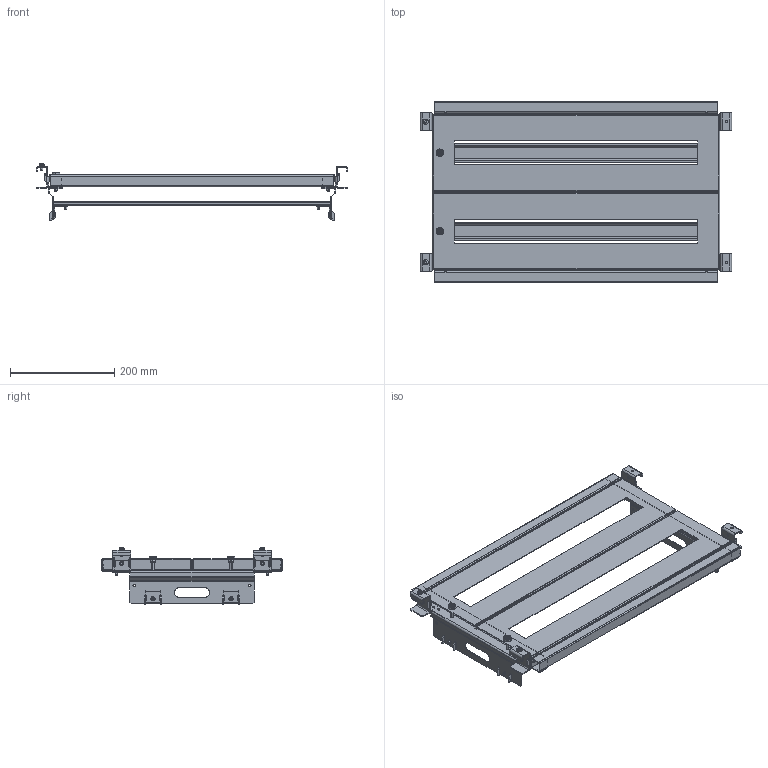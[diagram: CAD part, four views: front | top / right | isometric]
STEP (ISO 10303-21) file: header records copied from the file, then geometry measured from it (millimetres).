
FILE_DESCRIPTION (( 'STEP AP203' ), '1' );
FILE_NAME ('ECMI060040X.STEP', '2025-03-19T15:17:04', ( '' ), ( '' ), 'SwSTEP 2.0', 'SolidWorks 2022', '' );
FILE_SCHEMA (( 'CONFIG_CONTROL_DESIGN' ));
Length unit declared in the file: millimetre
Products named in the file (13): 03008060013_04; Vite TRI TCB UNI 8112_Vite trilobata TCB M5x30 UNI 8112; 0910200000001_01; 05008060005_07; Vite TRI TPS TORX DIN 7500_Vite trilobata TPS TORX M5x10 DIN7500; 10008060002_01; ECMI060040X; 03008060009_02; 10008060001_01; Vite TRI TCB TORX DIN 7500_Vite trilobata TCB TORX M5x10 DIN 7500; 05008060006_04; 00008060006_04; 03008060008_07
Assembly tree (44 placements, depth 3):
  ECMI060040X
    03008060009_02  x2
    10008060001_01  x4
    10008060002_01  x8
    Vite TRI TCB TORX DIN 7500_Vite trilobata TCB TORX M5x10 DIN 7500  x10
    Vite TRI TPS TORX DIN 7500_Vite trilobata TPS TORX M5x10 DIN7500  x8
    05008060005_07  x2
      03008060008_07
    00008060006_04  x2
    Vite TRI TCB UNI 8112_Vite trilobata TCB M5x30 UNI 8112  x2
    0910200000001_01  x2
    05008060006_04  x2
      03008060013_04
Bounding box: 597 x 346.4 x 108.92 mm (x, y, z)
Volume: 481556.8 mm3; surface area: 740251 mm2
Topology: 42 solids, 42 shells, 1884 faces, 4652 edges, 2872 vertices
Faces by surface type: plane 966, cylinder 738, torus 100, cone 72, sphere 4, bspline 4
Entity records: 18121 total; most frequent: DIRECTION 2842, CARTESIAN_POINT 2810, ORIENTED_EDGE 2626, EDGE_CURVE 1313, AXIS2_PLACEMENT_3D 974, LINE 894, VECTOR 894, VERTEX_POINT 814
